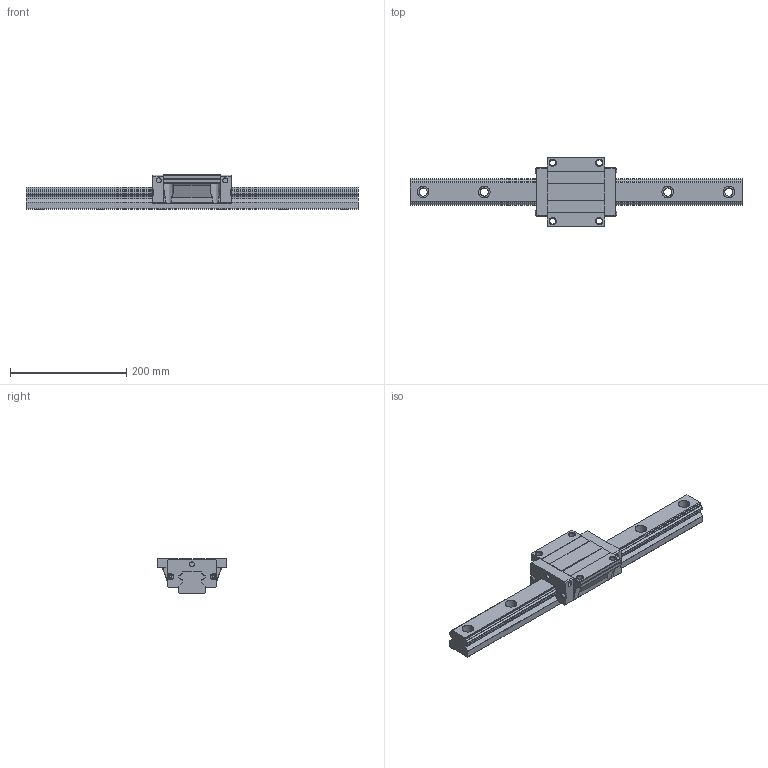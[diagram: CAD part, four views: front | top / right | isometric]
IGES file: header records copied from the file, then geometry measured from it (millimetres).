
Start section: START RECORD GO HERE.
Global section: file name: SBG45_FL.igs; native system: IBM CATIA IGES - CATIA Version 5 Release 16 ; preprocessor: CATIA Version 5 Release 16 ; author: mycom; organization: RD03; date: 20070228.144824; units: millimetre
Bounding box: 570 x 120 x 60 mm (x, y, z)
Surface area: 184257.6 mm2 (no closed solid volume)
Topology: 0 solids, 0 shells, 316 faces, 1736 edges, 1732 vertices
Faces by surface type: revolution 167, plane 149
